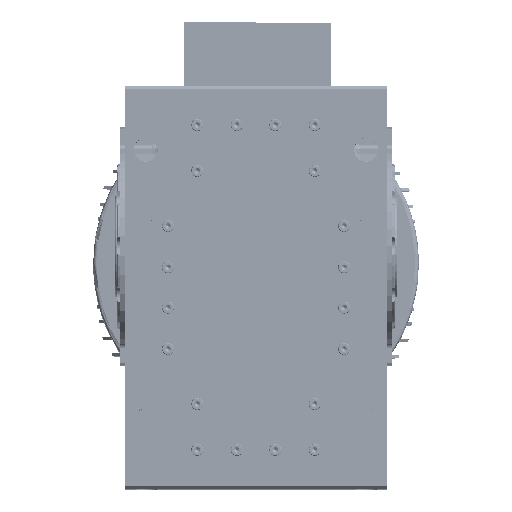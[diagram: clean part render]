
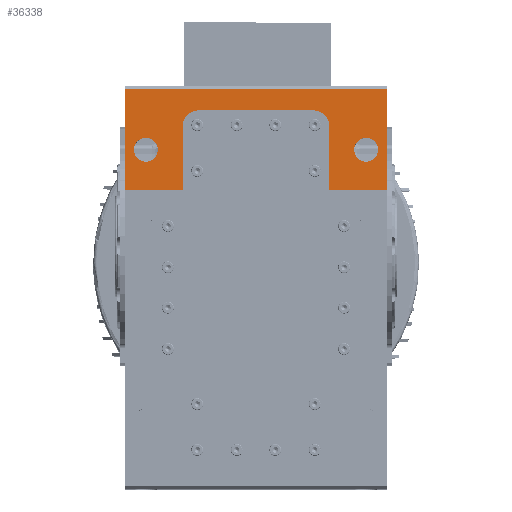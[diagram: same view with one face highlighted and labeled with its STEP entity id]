
A CAD part, top view. The second image highlights one B-rep face of the part: STEP entity #36338.
In plain terms, the highlighted planar face has unit normal (0, 0, 1).
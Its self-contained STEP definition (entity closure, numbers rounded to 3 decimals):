
#1693 = CARTESIAN_POINT ( 'NONE',  ( -90.5, 61., 160. ) ) ;
#1721 = DIRECTION ( 'NONE',  ( 1., 0., 0. ) ) ;
#8460 = EDGE_CURVE ( 'NONE', #90016, #88005, #129271, .T. ) ;
#8568 = EDGE_CURVE ( 'NONE', #89936, #89951, #129821, .T. ) ;
#14802 = DIRECTION ( 'NONE',  ( 0., 0., -1. ) ) ;
#14811 = CARTESIAN_POINT ( 'NONE',  ( 120., 105., 160. ) ) ;
#14814 = DIRECTION ( 'NONE',  ( 1., 0., 0. ) ) ;
#36338 = ADVANCED_FACE ( 'NONE', ( #43916, #43922, #43909 ), #190210, .T. ) ;
#39694 = EDGE_CURVE ( 'NONE', #145310, #144920, #104176, .T. ) ;
#40007 = EDGE_CURVE ( 'NONE', #145391, #145542, #102629, .T. ) ;
#40046 = EDGE_CURVE ( 'NONE', #145542, #144908, #102717, .T. ) ;
#40089 = EDGE_CURVE ( 'NONE', #145391, #145534, #102803, .T. ) ;
#40170 = EDGE_CURVE ( 'NONE', #145310, #145534, #102979, .T. ) ;
#42831 = EDGE_CURVE ( 'NONE', #144824, #144821, #55644, .T. ) ;
#42905 = EDGE_CURVE ( 'NONE', #88005, #90016, #55871, .T. ) ;
#42928 = EDGE_CURVE ( 'NONE', #144846, #144824, #55888, .T. ) ;
#42944 = EDGE_CURVE ( 'NONE', #144912, #144908, #55812, .T. ) ;
#42997 = EDGE_CURVE ( 'NONE', #144821, #144912, #56012, .T. ) ;
#43211 = EDGE_CURVE ( 'NONE', #144920, #144846, #56128, .T. ) ;
#43906 = EDGE_CURVE ( 'NONE', #89951, #89936, #126724, .T. ) ;
#43909 = FACE_OUTER_BOUND ( 'NONE', #46875, .T. ) ;
#43916 = FACE_BOUND ( 'NONE', #46826, .T. ) ;
#43922 = FACE_BOUND ( 'NONE', #46861, .T. ) ;
#46826 = EDGE_LOOP ( 'NONE', ( #99746, #99683 ) ) ;
#46861 = EDGE_LOOP ( 'NONE', ( #99684, #99672 ) ) ;
#46875 = EDGE_LOOP ( 'NONE', ( #99713, #99718, #99756, #99722, #99721, #99788, #99727, #99755, #99795, #99701 ) ) ;
#55644 = LINE ( 'NONE', #190395, #55675 ) ;
#55675 = VECTOR ( 'NONE', #190448, 1000. ) ;
#55812 = LINE ( 'NONE', #190993, #55988 ) ;
#55871 = CIRCLE ( 'NONE', #63754, 13. ) ;
#55888 = CIRCLE ( 'NONE', #63766, 17.5 ) ;
#55988 = VECTOR ( 'NONE', #191064, 1000. ) ;
#56012 = CIRCLE ( 'NONE', #63749, 17.5 ) ;
#56128 = LINE ( 'NONE', #192277, #56132 ) ;
#56132 = VECTOR ( 'NONE', #192281, 1000. ) ;
#59619 = CARTESIAN_POINT ( 'NONE',  ( 90.5, 61., 160. ) ) ;
#59622 = DIRECTION ( 'NONE',  ( -1., 0., 0. ) ) ;
#61600 = AXIS2_PLACEMENT_3D ( 'NONE', #190247, #190274, #190214 ) ;
#61987 = DIRECTION ( 'NONE',  ( 0., -1., 0. ) ) ;
#61996 = CARTESIAN_POINT ( 'NONE',  ( 142.5, 171., 160. ) ) ;
#63749 = AXIS2_PLACEMENT_3D ( 'NONE', #191428, #191509, #191408 ) ;
#63754 = AXIS2_PLACEMENT_3D ( 'NONE', #190841, #190855, #190760 ) ;
#63766 = AXIS2_PLACEMENT_3D ( 'NONE', #190870, #190725, #190815 ) ;
#64134 = AXIS2_PLACEMENT_3D ( 'NONE', #14811, #14802, #14814 ) ;
#68514 = AXIS2_PLACEMENT_3D ( 'NONE', #118043, #118030, #118037 ) ;
#68681 = AXIS2_PLACEMENT_3D ( 'NONE', #119331, #119376, #119347 ) ;
#88005 = VERTEX_POINT ( 'NONE', #130710 ) ;
#89936 = VERTEX_POINT ( 'NONE', #159312 ) ;
#89951 = VERTEX_POINT ( 'NONE', #159432 ) ;
#90016 = VERTEX_POINT ( 'NONE', #159373 ) ;
#91175 = CARTESIAN_POINT ( 'NONE',  ( -142.5, 171., 160. ) ) ;
#91223 = DIRECTION ( 'NONE',  ( 0., 1., 0. ) ) ;
#93168 = CARTESIAN_POINT ( 'NONE',  ( -90.5, 171., 160. ) ) ;
#93198 = DIRECTION ( 'NONE',  ( -1., 0., 0. ) ) ;
#96282 = CARTESIAN_POINT ( 'NONE',  ( -80., 130.5, 160. ) ) ;
#96291 = CARTESIAN_POINT ( 'NONE',  ( -80., 61., 160. ) ) ;
#96297 = CARTESIAN_POINT ( 'NONE',  ( 62.5, 148., 160. ) ) ;
#96320 = CARTESIAN_POINT ( 'NONE',  ( -62.5, 148., 160. ) ) ;
#96375 = CARTESIAN_POINT ( 'NONE',  ( 80., 61., 160. ) ) ;
#96377 = CARTESIAN_POINT ( 'NONE',  ( 80., 130.5, 160. ) ) ;
#96900 = CARTESIAN_POINT ( 'NONE',  ( -142.5, 61., 160. ) ) ;
#97006 = CARTESIAN_POINT ( 'NONE',  ( 142.5, 171., 160. ) ) ;
#99672 = ORIENTED_EDGE ( 'NONE', *, *, #43906, .T. ) ;
#99683 = ORIENTED_EDGE ( 'NONE', *, *, #42905, .T. ) ;
#99684 = ORIENTED_EDGE ( 'NONE', *, *, #8568, .T. ) ;
#99701 = ORIENTED_EDGE ( 'NONE', *, *, #42997, .T. ) ;
#99713 = ORIENTED_EDGE ( 'NONE', *, *, #42944, .T. ) ;
#99718 = ORIENTED_EDGE ( 'NONE', *, *, #40046, .F. ) ;
#99721 = ORIENTED_EDGE ( 'NONE', *, *, #40170, .F. ) ;
#99722 = ORIENTED_EDGE ( 'NONE', *, *, #40089, .T. ) ;
#99727 = ORIENTED_EDGE ( 'NONE', *, *, #43211, .T. ) ;
#99746 = ORIENTED_EDGE ( 'NONE', *, *, #8460, .T. ) ;
#99755 = ORIENTED_EDGE ( 'NONE', *, *, #42928, .T. ) ;
#99756 = ORIENTED_EDGE ( 'NONE', *, *, #40007, .F. ) ;
#99788 = ORIENTED_EDGE ( 'NONE', *, *, #39694, .T. ) ;
#99795 = ORIENTED_EDGE ( 'NONE', *, *, #42831, .T. ) ;
#102623 = VECTOR ( 'NONE', #61987, 1000. ) ;
#102629 = LINE ( 'NONE', #61996, #102623 ) ;
#102717 = LINE ( 'NONE', #59619, #102766 ) ;
#102766 = VECTOR ( 'NONE', #59622, 1000. ) ;
#102803 = LINE ( 'NONE', #93168, #102878 ) ;
#102878 = VECTOR ( 'NONE', #93198, 1000. ) ;
#102908 = VECTOR ( 'NONE', #91223, 1000. ) ;
#102979 = LINE ( 'NONE', #91175, #102908 ) ;
#104176 = LINE ( 'NONE', #1693, #104288 ) ;
#104288 = VECTOR ( 'NONE', #1721, 1000. ) ;
#104439 = CARTESIAN_POINT ( 'NONE',  ( -142.5, 171., 160. ) ) ;
#104466 = CARTESIAN_POINT ( 'NONE',  ( 142.5, 61., 160. ) ) ;
#118030 = DIRECTION ( 'NONE',  ( 0., 0., -1. ) ) ;
#118037 = DIRECTION ( 'NONE',  ( 1., 0., 0. ) ) ;
#118043 = CARTESIAN_POINT ( 'NONE',  ( -120., 105., 160. ) ) ;
#119331 = CARTESIAN_POINT ( 'NONE',  ( 120., 105., 160. ) ) ;
#119347 = DIRECTION ( 'NONE',  ( 1., 0., 0. ) ) ;
#119376 = DIRECTION ( 'NONE',  ( 0., 0., -1. ) ) ;
#126724 = CIRCLE ( 'NONE', #64134, 13. ) ;
#129271 = CIRCLE ( 'NONE', #68514, 13. ) ;
#129821 = CIRCLE ( 'NONE', #68681, 13. ) ;
#130710 = CARTESIAN_POINT ( 'NONE',  ( -133., 105., 160. ) ) ;
#144821 = VERTEX_POINT ( 'NONE', #96297 ) ;
#144824 = VERTEX_POINT ( 'NONE', #96320 ) ;
#144846 = VERTEX_POINT ( 'NONE', #96282 ) ;
#144908 = VERTEX_POINT ( 'NONE', #96375 ) ;
#144912 = VERTEX_POINT ( 'NONE', #96377 ) ;
#144920 = VERTEX_POINT ( 'NONE', #96291 ) ;
#145310 = VERTEX_POINT ( 'NONE', #96900 ) ;
#145391 = VERTEX_POINT ( 'NONE', #97006 ) ;
#145534 = VERTEX_POINT ( 'NONE', #104439 ) ;
#145542 = VERTEX_POINT ( 'NONE', #104466 ) ;
#159312 = CARTESIAN_POINT ( 'NONE',  ( 133., 105., 160. ) ) ;
#159373 = CARTESIAN_POINT ( 'NONE',  ( -107., 105., 160. ) ) ;
#159432 = CARTESIAN_POINT ( 'NONE',  ( 107., 105., 160. ) ) ;
#190210 = PLANE ( 'NONE',  #61600 ) ;
#190214 = DIRECTION ( 'NONE',  ( 0., -1., 0. ) ) ;
#190247 = CARTESIAN_POINT ( 'NONE',  ( -90.5, 175., 160. ) ) ;
#190274 = DIRECTION ( 'NONE',  ( 0., 0., 1. ) ) ;
#190395 = CARTESIAN_POINT ( 'NONE',  ( -90.5, 148., 160. ) ) ;
#190448 = DIRECTION ( 'NONE',  ( 1., 0., 0. ) ) ;
#190725 = DIRECTION ( 'NONE',  ( 0., 0., -1. ) ) ;
#190760 = DIRECTION ( 'NONE',  ( 1., 0., 0. ) ) ;
#190815 = DIRECTION ( 'NONE',  ( 1., 0., 0. ) ) ;
#190841 = CARTESIAN_POINT ( 'NONE',  ( -120., 105., 160. ) ) ;
#190855 = DIRECTION ( 'NONE',  ( 0., 0., -1. ) ) ;
#190870 = CARTESIAN_POINT ( 'NONE',  ( -62.5, 130.5, 160. ) ) ;
#190993 = CARTESIAN_POINT ( 'NONE',  ( 80., 175., 160. ) ) ;
#191064 = DIRECTION ( 'NONE',  ( 0., -1., 0. ) ) ;
#191408 = DIRECTION ( 'NONE',  ( 1., 0., 0. ) ) ;
#191428 = CARTESIAN_POINT ( 'NONE',  ( 62.5, 130.5, 160. ) ) ;
#191509 = DIRECTION ( 'NONE',  ( 0., 0., -1. ) ) ;
#192277 = CARTESIAN_POINT ( 'NONE',  ( -80., 175., 160. ) ) ;
#192281 = DIRECTION ( 'NONE',  ( 0., 1., 0. ) ) ;
